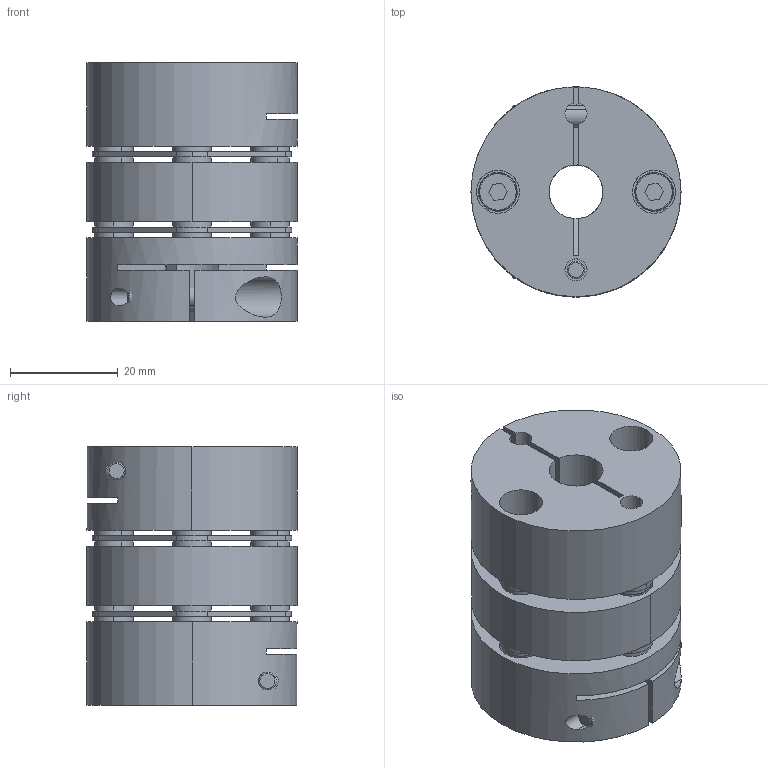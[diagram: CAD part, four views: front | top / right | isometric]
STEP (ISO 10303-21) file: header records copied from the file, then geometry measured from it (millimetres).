
FILE_DESCRIPTION (( 'STEP AP214' ), '1' );
FILE_NAME ('LC-G-035DA-14BH-10B.STEP', '2019-12-13T09:04:28', ( 'admin' ), ( 'Microsoft' ), 'SwSTEP 2.0', 'SolidWorks 2016', '' );
FILE_SCHEMA (( 'AUTOMOTIVE_DESIGN' ));
Length unit declared in the file: millimetre
Products named in the file (1): LC-G-035DA-14BH-10B
Bounding box: 39 x 39 x 48 mm (x, y, z)
Volume: 40047 mm3; surface area: 25042 mm2
Topology: 31 solids, 31 shells, 446 faces, 1038 edges, 672 vertices
Faces by surface type: cylinder 203, plane 183, torus 40, cone 20
Entity records: 18500 total; most frequent: CARTESIAN_POINT 2569, DIRECTION 2418, ORIENTED_EDGE 2076, EDGE_CURVE 1038, AXIS2_PLACEMENT_3D 961, VERTEX_POINT 672, EDGE_LOOP 558, CIRCLE 514
